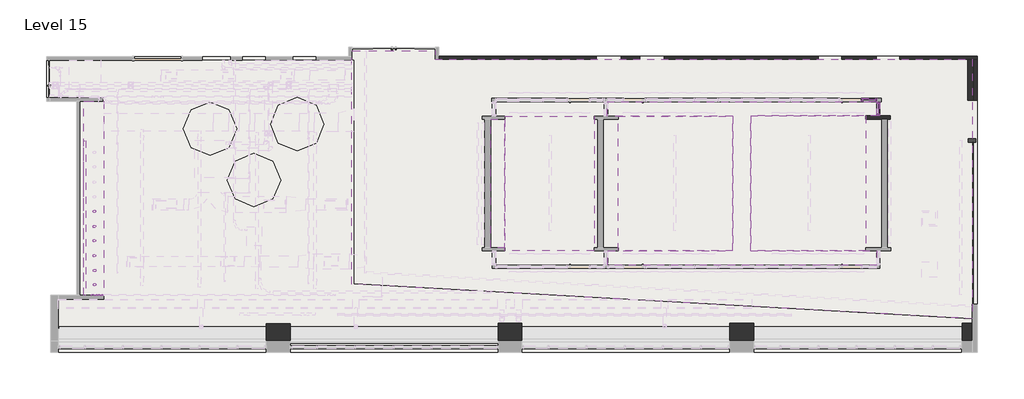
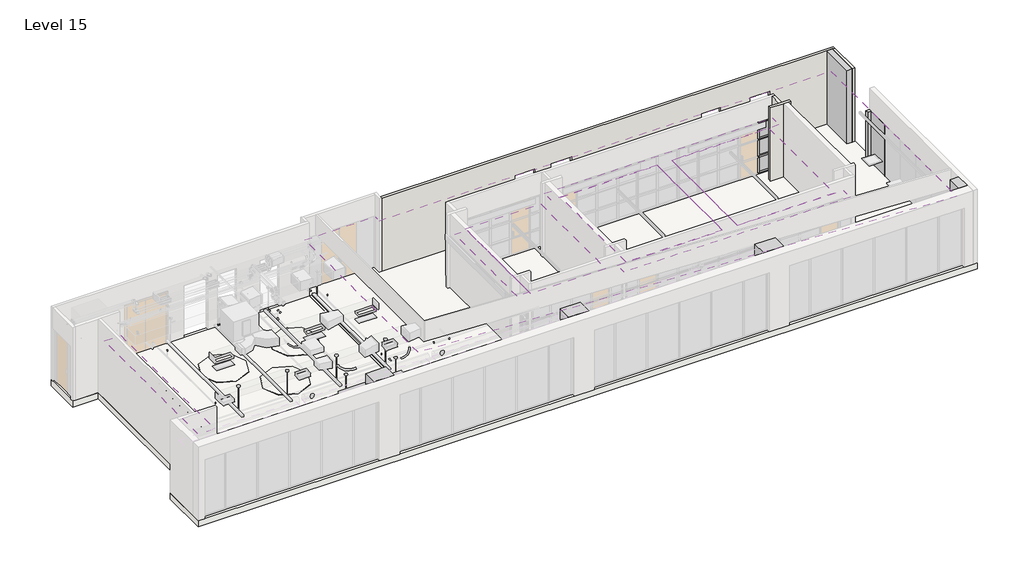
# One storey, part 6 of 11: 21 members, 7 coverings, 7 light fixtures, 7 plates, 7 slabs, 5 columns, 4 walls, 1 cable carrier fitting, 2 other elements.
"""IFC4 building model written with IfcOpenShell, lengths in millimetres."""

from ifc_helpers import new_model, si_unit, point, frame, frame_2d, origin, place, context, project, spatial, polyline, circle_curve, trimmed, segment, composite_curve, outline, extrude, faceted_brep, transform, mapped, element, save
from components import conduit_elbow_steel_standard_458d5d39, light_fixture_42e92d41, vessel_pendant_light_e44dd57b, member_954a25dd, member_b9f3750b, member_69cae7f1, member_757d0d80, member_801e719f, member_073d71e8, member_393abe5d, power_recessed_all2_duplex_standard_2_0b10a376, system_panel_glazed_545210b6, system_panel_glazed_46c34380, system_panel_glazed_1fe242f3, system_panel_glazed_966251f3, system_panel_glazed_4a8b0cf2

model = new_model("IFC4")

# Units and contexts
model_context = context("Model", 3, world=origin())
ifc_project = project(units=[si_unit("LENGTHUNIT", "METRE", prefix="MILLI")], contexts=[model_context])

# Site, building, storey
site = spatial("IfcSite", under=ifc_project)
building = spatial("IfcBuilding", under=site)
storey = spatial("IfcBuildingStorey", under=building, Name="Level 15", Elevation=51206.4)

# Cable carrier fitting
placement = place(None, origin())
conduit_elbow_steel_standard_shape = conduit_elbow_steel_standard_458d5d39(model_context)
element("IfcCableCarrierFitting", 1, ObjectType="Conduit Elbow - Steel : Standard", at=placement, inside=storey, context=model_context, shape_type="MappedRepresentation", body=[
    mapped(conduit_elbow_steel_standard_shape, transform((-16184.9997966, -4754.4898444, 54152.8), x_axis=(-1.0, 0.0, 0.0), y_axis=(0.0, 0.0, 1.0), z_axis=(0.0, 1.0, 0.0))),
])

# Cable carrier segment
element("IfcCableCarrierSegment", 2, ObjectType="Conduit", at=placement, inside=storey, context=model_context, shape_type="SweptSolid", body=[
    extrude(outline(composite_curve([segment(trimmed(circle_curve(frame_2d((0.0, 27.9019)), 27.9019), [point((0.0, 55.8038))], [point((27.9019, 27.9019))], False, "CARTESIAN"), True, "CONTINUOUS"), segment(trimmed(circle_curve(frame_2d((0.0, 27.9019)), 27.9019), [point((27.9019, 27.9019))], [point((0.0, 0.0))], False, "CARTESIAN"), True, "CONTINUOUS"), segment(trimmed(circle_curve(frame_2d((0.0, 27.9019)), 27.9019), [point((0.0, 0.0))], [point((-27.9019, 27.9019))], False, "CARTESIAN"), True, "CONTINUOUS"), segment(trimmed(circle_curve(frame_2d((0.0, 27.9019)), 27.9019), [point((-27.9019, 27.9019))], [point((0.0, 55.8038))], False, "CARTESIAN"), True, "CONTINUOUS")], self_intersect=False)), frame((-16336.928885, -4782.3917444, 54226.9007676), z_axis=(-0.8987940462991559, 0.0, 0.4383711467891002), x_axis=(0.4383711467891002, 0.0, 0.8987940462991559)), (0.0, 0.0, 1.0), 200.2570741),
])

# Columns
element("IfcColumn", 3, ObjectType="I-Rectangular : Generic", at=placement, inside=storey, context=model_context, shape_type="Brep", body=[
    faceted_brep([(-9539.17525, -5899.1866039, 51206.4), (-8574.3902447, -5899.1866039, 51206.4), (-8574.3902447, -6583.4064015, 51206.4), (-9539.17525, -6583.4064015, 51206.4), (-8574.3902447, -5899.1866039, 54889.4), (-8574.3902447, -6583.4064015, 54889.4), (-8574.3902447, -6583.4064015, 54177.8252182), (-9539.17525, -5899.1866039, 54889.4), (-9539.17525, -6583.4064015, 54177.8252182), (-9539.17525, -6583.4064015, 54889.4)], [[[0, 1, 2, 3]], [[1, 4, 5, 6, 2]], [[7, 0, 3, 8, 9]], [[1, 0, 7, 4]], [[4, 7, 9, 5]], [[3, 2, 6, 5, 9, 8]]]),
])
element("IfcColumn", 4, ObjectType="I-Rectangular : Generic", at=placement, inside=storey, context=model_context, shape_type="Brep", body=[
    faceted_brep([(-274.9578349, -5871.0652372, 51206.4), (671.2097553, -5871.0652372, 51206.4), (671.2097553, -6583.4064015, 51206.4), (-274.9578349, -6583.4064015, 51206.4), (671.2097553, -5871.0652372, 54889.4), (671.2097553, -6583.4064015, 54889.4), (671.2097553, -6583.4064015, 54177.8252182), (-274.9578349, -5871.0652372, 54889.4), (-274.9578349, -6583.4064015, 54177.8252182), (-274.9578349, -6583.4064015, 54889.4)], [[[0, 1, 2, 3]], [[1, 4, 5, 6, 2]], [[7, 0, 3, 8, 9]], [[1, 0, 7, 4]], [[4, 7, 9, 5]], [[3, 2, 6, 5, 9, 8]]]),
])
element("IfcColumn", 5, ObjectType="I-Rectangular : Generic", at=placement, inside=storey, context=model_context, shape_type="Brep", body=[
    faceted_brep([(8970.6421651, -5869.3476501, 51206.4), (9927.9060211, -5869.3476501, 51206.4), (9927.9060211, -6583.4064015, 51206.4), (8970.6421651, -6583.4064015, 51206.4), (9927.9060211, -5869.3476501, 54889.4), (9927.9060211, -6583.4064015, 54889.4), (9927.9060211, -6583.4064015, 54177.8252182), (8970.6421651, -5869.3476501, 54889.4), (8970.6421651, -6583.4064015, 54177.8252182), (8970.6421651, -6583.4064015, 54889.4)], [[[0, 1, 2, 3]], [[1, 4, 5, 6, 2]], [[7, 0, 3, 8, 9]], [[1, 0, 7, 4]], [[4, 7, 9, 5]], [[3, 2, 6, 5, 9, 8]]]),
])
element("IfcColumn", 6, ObjectType="I-Rectangular : Generic", at=placement, inside=storey, context=model_context, shape_type="SweptSolid", body=[
    extrude(outline(polyline([(18244.658577, -6583.4064015), (18244.658577, -5866.7417202), (18657.7084916, -5866.7417202), (18657.7084916, -6583.4064015), (18244.658577, -6583.4064015)])), frame((0.0, 0.0, 51206.4), z_axis=(0.0, 0.0, 1.0), x_axis=(1.0, 0.0, 0.0)), (0.0, 0.0, 1.0), 3683.0),
])
element("IfcColumn", 7, ObjectType="I-Rectangular : Generic", at=placement, inside=storey, context=model_context, shape_type="SweptSolid", body=[
    extrude(outline(polyline([(18721.2084916, 4668.7435985), (18721.2084916, 3026.2127401), (18467.0166559, 3026.2127401), (18467.0166559, 4668.7435985), (18721.2084916, 4668.7435985)])), frame((0.0, 0.0, 51206.4), z_axis=(0.0, 0.0, 1.0), x_axis=(1.0, 0.0, 0.0)), (0.0, 0.0, 1.0), 3683.0),
])

# Coverings
element("IfcCovering", 8, ObjectType="30\" x 30\" ACT System", at=placement, inside=storey, context=model_context, shape_type="SweptSolid", body=[
    extrude(outline(polyline([(-7.6915135, 2394.7059951), (3562.7584916, 2394.7059951), (3562.7584916, -2979.8064015), (-7.6915135, -2979.8064015), (-7.6915135, 2394.7059951)]), holes=[composite_curve([segment(trimmed(circle_curve(frame_2d((627.7584916, -1841.8064015)), 70.0), [point((557.7584916, -1841.8064015))], [point((697.7584916, -1841.8064015))], True, "CARTESIAN"), True, "CONTINUOUS"), segment(trimmed(circle_curve(frame_2d((627.7584916, -1841.8064015)), 70.0), [point((697.7584916, -1841.8064015))], [point((557.7584916, -1841.8064015))], True, "CARTESIAN"), True, "CONTINUOUS")], self_intersect=False), composite_curve([segment(trimmed(circle_curve(frame_2d((2937.7584916, -1841.8064015)), 70.0), [point((2867.7584916, -1841.8064015))], [point((3007.7584916, -1841.8064015))], True, "CARTESIAN"), True, "CONTINUOUS"), segment(trimmed(circle_curve(frame_2d((2937.7584916, -1841.8064015)), 70.0), [point((3007.7584916, -1841.8064015))], [point((2867.7584916, -1841.8064015))], True, "CARTESIAN"), True, "CONTINUOUS")], self_intersect=False)]), frame((0.0, 0.0, 53797.2), z_axis=(0.0, 0.0, 1.0), x_axis=(1.0, 0.0, 0.0)), (0.0, 0.0, 1.0), 57.15),
])
element("IfcCovering", 9, ObjectType="30\" x 30\" ACT System", at=placement, inside=storey, context=model_context, shape_type="SweptSolid", body=[
    extrude(outline(polyline([(4517.5084916, -2979.8064015), (4517.5084916, 2394.7059951), (9097.7584916, 2394.7059951), (9097.7584916, -2979.8064015), (4517.5084916, -2979.8064015)]), holes=[composite_curve([segment(trimmed(circle_curve(frame_2d((5677.7584916, 1258.1935985)), 70.0), [point((5607.7584916, 1258.1935985))], [point((5747.7584916, 1258.1935985))], True, "CARTESIAN"), True, "CONTINUOUS"), segment(trimmed(circle_curve(frame_2d((5677.7584916, 1258.1935985)), 70.0), [point((5747.7584916, 1258.1935985))], [point((5607.7584916, 1258.1935985))], True, "CARTESIAN"), True, "CONTINUOUS")], self_intersect=False), composite_curve([segment(trimmed(circle_curve(frame_2d((7997.7584916, 1258.1935985)), 70.0), [point((7927.7584916, 1258.1935985))], [point((8067.7584916, 1258.1935985))], True, "CARTESIAN"), True, "CONTINUOUS"), segment(trimmed(circle_curve(frame_2d((7997.7584916, 1258.1935985)), 70.0), [point((8067.7584916, 1258.1935985))], [point((7927.7584916, 1258.1935985))], True, "CARTESIAN"), True, "CONTINUOUS")], self_intersect=False), composite_curve([segment(trimmed(circle_curve(frame_2d((5667.7584916, -1833.8064015)), 70.0), [point((5597.7584916, -1833.8064015))], [point((5737.7584916, -1833.8064015))], True, "CARTESIAN"), True, "CONTINUOUS"), segment(trimmed(circle_curve(frame_2d((5667.7584916, -1833.8064015)), 70.0), [point((5737.7584916, -1833.8064015))], [point((5597.7584916, -1833.8064015))], True, "CARTESIAN"), True, "CONTINUOUS")], self_intersect=False), composite_curve([segment(trimmed(circle_curve(frame_2d((7947.7584916, -1851.8064015)), 70.0), [point((7877.7584916, -1851.8064015))], [point((8017.7584916, -1851.8064015))], True, "CARTESIAN"), True, "CONTINUOUS"), segment(trimmed(circle_curve(frame_2d((7947.7584916, -1851.8064015)), 70.0), [point((8017.7584916, -1851.8064015))], [point((7877.7584916, -1851.8064015))], True, "CARTESIAN"), True, "CONTINUOUS")], self_intersect=False)]), frame((0.0, 0.0, 53797.2), z_axis=(0.0, 0.0, 1.0), x_axis=(1.0, 0.0, 0.0)), (0.0, 0.0, 1.0), 57.15),
])
element("IfcCovering", 10, ObjectType="30\" x 30\" ACT System", at=placement, inside=storey, context=model_context, shape_type="SweptSolid", body=[
    extrude(outline(polyline([(9803.199573, 2402.7935985), (14409.2229086, 2402.7935985), (14409.2229086, -2979.9154908), (9803.199573, -2979.9154908), (9803.199573, 2402.7935985)]), holes=[composite_curve([segment(trimmed(circle_curve(frame_2d((10967.7584916, -1841.8064015)), 70.0), [point((10897.7584916, -1841.8064015))], [point((11037.7584916, -1841.8064015))], True, "CARTESIAN"), True, "CONTINUOUS"), segment(trimmed(circle_curve(frame_2d((10967.7584916, -1841.8064015)), 70.0), [point((11037.7584916, -1841.8064015))], [point((10897.7584916, -1841.8064015))], True, "CARTESIAN"), True, "CONTINUOUS")], self_intersect=False), composite_curve([segment(trimmed(circle_curve(frame_2d((13277.7584916, -1841.8064015)), 70.0), [point((13207.7584916, -1841.8064015))], [point((13347.7584916, -1841.8064015))], True, "CARTESIAN"), True, "CONTINUOUS"), segment(trimmed(circle_curve(frame_2d((13277.7584916, -1841.8064015)), 70.0), [point((13347.7584916, -1841.8064015))], [point((13207.7584916, -1841.8064015))], True, "CARTESIAN"), True, "CONTINUOUS")], self_intersect=False), composite_curve([segment(trimmed(circle_curve(frame_2d((10967.7584916, 1258.1935985)), 70.0), [point((10897.7584916, 1258.1935985))], [point((11037.7584916, 1258.1935985))], True, "CARTESIAN"), True, "CONTINUOUS"), segment(trimmed(circle_curve(frame_2d((10967.7584916, 1258.1935985)), 70.0), [point((11037.7584916, 1258.1935985))], [point((10897.7584916, 1258.1935985))], True, "CARTESIAN"), True, "CONTINUOUS")], self_intersect=False), composite_curve([segment(trimmed(circle_curve(frame_2d((13277.7584916, 1258.1935985)), 70.0), [point((13207.7584916, 1258.1935985))], [point((13347.7584916, 1258.1935985))], True, "CARTESIAN"), True, "CONTINUOUS"), segment(trimmed(circle_curve(frame_2d((13277.7584916, 1258.1935985)), 70.0), [point((13347.7584916, 1258.1935985))], [point((13207.7584916, 1258.1935985))], True, "CARTESIAN"), True, "CONTINUOUS")], self_intersect=False)]), frame((0.0, 0.0, 53797.2), z_axis=(0.0, 0.0, 1.0), x_axis=(1.0, 0.0, 0.0)), (0.0, 0.0, 1.0), 57.15),
])
element("IfcCovering", 11, ObjectType="GWB on Mtl. Stud", at=placement, inside=storey, context=model_context, shape_type="SweptSolid", body=[
    extrude(outline(polyline([(-2790.2478839, 4668.7435985), (18657.7084916, 4668.7435985), (18657.7084916, -5694.4064015), (-6122.87525, -4309.3116273), (-6122.87525, 5008.9081345), (-2790.2478839, 5008.9081345), (-2790.2478839, 4668.7435985)]), holes=[composite_curve([segment(trimmed(circle_curve(frame_2d((-4452.2415084, 3878.1935985)), 70.0), [point((-4522.2415084, 3878.1935985))], [point((-4382.2415084, 3878.1935985))], True, "CARTESIAN"), True, "CONTINUOUS"), segment(trimmed(circle_curve(frame_2d((-4452.2415084, 3878.1935985)), 70.0), [point((-4382.2415084, 3878.1935985))], [point((-4522.2415084, 3878.1935985))], True, "CARTESIAN"), True, "CONTINUOUS")], self_intersect=False), composite_curve([segment(trimmed(circle_curve(frame_2d((-4452.2415084, 2015.1935985)), 70.0), [point((-4522.2415084, 2015.1935985))], [point((-4382.2415084, 2015.1935985))], True, "CARTESIAN"), True, "CONTINUOUS"), segment(trimmed(circle_curve(frame_2d((-4452.2415084, 2015.1935985)), 70.0), [point((-4382.2415084, 2015.1935985))], [point((-4522.2415084, 2015.1935985))], True, "CARTESIAN"), True, "CONTINUOUS")], self_intersect=False), composite_curve([segment(trimmed(circle_curve(frame_2d((-4452.2415084, 98.1935985)), 70.0), [point((-4522.2415084, 98.1935985))], [point((-4382.2415084, 98.1935985))], True, "CARTESIAN"), True, "CONTINUOUS"), segment(trimmed(circle_curve(frame_2d((-4452.2415084, 98.1935985)), 70.0), [point((-4382.2415084, 98.1935985))], [point((-4522.2415084, 98.1935985))], True, "CARTESIAN"), True, "CONTINUOUS")], self_intersect=False), composite_curve([segment(trimmed(circle_curve(frame_2d((-4452.2415084, -1761.8064015)), 70.0), [point((-4522.2415084, -1761.8064015))], [point((-4382.2415084, -1761.8064015))], True, "CARTESIAN"), True, "CONTINUOUS"), segment(trimmed(circle_curve(frame_2d((-4452.2415084, -1761.8064015)), 70.0), [point((-4382.2415084, -1761.8064015))], [point((-4522.2415084, -1761.8064015))], True, "CARTESIAN"), True, "CONTINUOUS")], self_intersect=False), composite_curve([segment(trimmed(circle_curve(frame_2d((-4452.2415084, -3684.6064015)), 70.0), [point((-4522.2415084, -3684.6064015))], [point((-4382.2415084, -3684.6064015))], True, "CARTESIAN"), True, "CONTINUOUS"), segment(trimmed(circle_curve(frame_2d((-4452.2415084, -3684.6064015)), 70.0), [point((-4382.2415084, -3684.6064015))], [point((-4522.2415084, -3684.6064015))], True, "CARTESIAN"), True, "CONTINUOUS")], self_intersect=False), composite_curve([segment(trimmed(circle_curve(frame_2d((-2501.1453174, 3878.1935985)), 70.0), [point((-2571.1453174, 3878.1935985))], [point((-2431.1453174, 3878.1935985))], True, "CARTESIAN"), True, "CONTINUOUS"), segment(trimmed(circle_curve(frame_2d((-2501.1453174, 3878.1935985)), 70.0), [point((-2431.1453174, 3878.1935985))], [point((-2571.1453174, 3878.1935985))], True, "CARTESIAN"), True, "CONTINUOUS")], self_intersect=False), composite_curve([segment(trimmed(circle_curve(frame_2d((-2501.1453174, 2015.1935985)), 70.0), [point((-2571.1453174, 2015.1935985))], [point((-2431.1453174, 2015.1935985))], True, "CARTESIAN"), True, "CONTINUOUS"), segment(trimmed(circle_curve(frame_2d((-2501.1453174, 2015.1935985)), 70.0), [point((-2431.1453174, 2015.1935985))], [point((-2571.1453174, 2015.1935985))], True, "CARTESIAN"), True, "CONTINUOUS")], self_intersect=False), composite_curve([segment(trimmed(circle_curve(frame_2d((-2501.1453174, 98.1935985)), 70.0), [point((-2571.1453174, 98.1935985))], [point((-2431.1453174, 98.1935985))], True, "CARTESIAN"), True, "CONTINUOUS"), segment(trimmed(circle_curve(frame_2d((-2501.1453174, 98.1935985)), 70.0), [point((-2431.1453174, 98.1935985))], [point((-2571.1453174, 98.1935985))], True, "CARTESIAN"), True, "CONTINUOUS")], self_intersect=False), composite_curve([segment(trimmed(circle_curve(frame_2d((-2501.1453174, -1761.8064015)), 70.0), [point((-2571.1453174, -1761.8064015))], [point((-2431.1453174, -1761.8064015))], True, "CARTESIAN"), True, "CONTINUOUS"), segment(trimmed(circle_curve(frame_2d((-2501.1453174, -1761.8064015)), 70.0), [point((-2431.1453174, -1761.8064015))], [point((-2571.1453174, -1761.8064015))], True, "CARTESIAN"), True, "CONTINUOUS")], self_intersect=False), composite_curve([segment(trimmed(circle_curve(frame_2d((-2501.1453174, -3684.6064015)), 70.0), [point((-2571.1453174, -3684.6064015))], [point((-2431.1453174, -3684.6064015))], True, "CARTESIAN"), True, "CONTINUOUS"), segment(trimmed(circle_curve(frame_2d((-2501.1453174, -3684.6064015)), 70.0), [point((-2431.1453174, -3684.6064015))], [point((-2571.1453174, -3684.6064015))], True, "CARTESIAN"), True, "CONTINUOUS")], self_intersect=False), polyline([(-529.1055951, 3103.416042), (-529.1055951, 2388.3059951), (-922.0915135, 2388.3059951), (-922.0915135, 2261.3059951), (-814.1415135, 2261.3059951), (-814.1415135, -2852.8064015), (-905.2415084, -2852.8064015), (-905.2415084, -2979.8064015), (-506.4144534, -2979.8064015), (-506.4144534, -3684.6064015), (14962.1855466, -3684.6064015), (14962.1855466, -2979.9154908), (15397.6738149, -2979.9154908), (15397.6738149, -2852.9154908), (15259.9736219, -2852.9154908), (15259.9736219, 2275.7935985), (15371.1287834, 2275.7935985), (15371.1287834, 2402.7935985), (15015.6944049, 2402.7935985), (15015.6944049, 3103.416042), (-529.1055951, 3103.416042)])]), frame((0.0, 0.0, 53797.2), z_axis=(0.0, 0.0, 1.0), x_axis=(1.0, 0.0, 0.0)), (0.0, 0.0, 1.0), 92.075),
])
element("IfcCovering", 12, ObjectType="GWB on Mtl. Stud", at=placement, inside=storey, context=model_context, shape_type="SweptSolid", body=[
    extrude(outline(polyline([(-16819.9809218, -4757.7011111), (-16819.9809218, 2985.6250496), (-16037.0051026, 2985.6250496), (-16037.0051026, -4757.7011111), (-16819.9809218, -4757.7011111)])), frame((0.0, 0.0, 53701.95), z_axis=(0.0, 0.0, 1.0), x_axis=(1.0, 0.0, 0.0)), (0.0, 0.0, 1.0), 92.075),
])
element("IfcCovering", 13, ObjectType="GWB on Mtl. Stud", at=placement, inside=storey, context=model_context, shape_type="SweptSolid", body=[
    extrude(outline(polyline([(-585.5415135, -2852.8064015), (-585.5415135, 2261.3059951), (-7.6915135, 2261.3059951), (-7.6915135, -2852.8064015), (-585.5415135, -2852.8064015)])), frame((0.0, 0.0, 53797.2), z_axis=(0.0, 0.0, 1.0), x_axis=(1.0, 0.0, 0.0)), (0.0, 0.0, 1.0), 92.075),
    extrude(outline(polyline([(3964.0369657, -2979.8064015), (3964.0369657, -3557.6064015), (-379.4144534, -3557.6064015), (-379.4144534, -2979.8064015), (3964.0369657, -2979.8064015)])), frame((0.0, 0.0, 53797.2), z_axis=(0.0, 0.0, 1.0), x_axis=(1.0, 0.0, 0.0)), (0.0, 0.0, 1.0), 92.075),
    extrude(outline(polyline([(3697.3369657, -2852.8064015), (3562.7584916, -2852.8064015), (3562.7584916, 2267.7059951), (3697.3369657, 2267.7059951), (3697.3369657, -2852.8064015)])), frame((0.0, 0.0, 53797.2), z_axis=(0.0, 0.0, 1.0), x_axis=(1.0, 0.0, 0.0)), (0.0, 0.0, 1.0), 92.075),
    extrude(outline(polyline([(3949.4264687, 2976.416042), (3949.4264687, 2394.7059951), (-402.1055951, 2394.7059951), (-402.1055951, 2976.416042), (3949.4264687, 2976.416042)])), frame((0.0, 0.0, 53797.2), z_axis=(0.0, 0.0, 1.0), x_axis=(1.0, 0.0, 0.0)), (0.0, 0.0, 1.0), 92.075),
])
element("IfcCovering", 14, ObjectType="GWB on Mtl. Stud", at=placement, inside=storey, context=model_context, shape_type="SweptSolid", body=[
    extrude(outline(polyline([(3925.9369657, -2852.8064015), (3925.9369657, 2267.7059951), (4517.5084916, 2267.7059951), (4517.5084916, -2852.8064015), (3925.9369657, -2852.8064015)])), frame((0.0, 0.0, 53797.2), z_axis=(0.0, 0.0, 1.0), x_axis=(1.0, 0.0, 0.0)), (0.0, 0.0, 1.0), 92.075),
    extrude(outline(polyline([(4091.0369657, -2979.8064015), (9097.7584916, -2979.8064015), (9097.7584916, 2394.7059951), (4076.4264687, 2394.7059951), (4076.4264687, 2976.416042), (14888.6944049, 2976.416042), (14888.6944049, 2402.7935985), (9803.199573, 2402.7935985), (9803.199573, -2979.9154908), (14835.1855466, -2979.9154908), (14835.1855466, -3557.6064015), (4091.0369657, -3557.6064015), (4091.0369657, -2979.8064015)])), frame((0.0, 0.0, 53797.2), z_axis=(0.0, 0.0, 1.0), x_axis=(1.0, 0.0, 0.0)), (0.0, 0.0, 1.0), 92.075),
    extrude(outline(polyline([(14409.2229086, -2852.9154908), (14409.2229086, 2275.7935985), (15031.3736219, 2275.7935985), (15031.3736219, -2852.9154908), (14409.2229086, -2852.9154908)])), frame((0.0, 0.0, 53797.2), z_axis=(0.0, 0.0, 1.0), x_axis=(1.0, 0.0, 0.0)), (0.0, 0.0, 1.0), 92.075),
])

# Light fixtures
light_fixture_shape = light_fixture_42e92d41(model_context)
element("IfcLightFixture", 15, ObjectType="Ceiling Light - Linear Box : 20' 3\"", at=placement, inside=storey, context=model_context, shape_type="MappedRepresentation", body=[
    mapped(light_fixture_shape, transform((-16781.8809218, -1670.6543631, 51263.55), x_axis=(0.0, 1.0, 0.0), y_axis=(-1.0, 0.0, 0.0), z_axis=(0.0, 0.0, 1.0))),
])
vessel_pendant_light_shape = vessel_pendant_light_e44dd57b(model_context)
element("IfcLightFixture", 16, ObjectType="Lighting-VSRA-Vessel-Pendant-Light-SM-3D-Humanscale : Vessel Pendant Light", at=placement, inside=storey, context=model_context, shape_type="MappedRepresentation", body=[
    mapped(vessel_pendant_light_shape, transform((-16402.2415084, -1412.7564015, 53511.8286274), x_axis=(1.0, 0.0, 0.0), y_axis=(0.0, 1.0, 0.0), z_axis=(0.0, 0.0, 1.0))),
])
element("IfcLightFixture", 17, ObjectType="Lighting-VSRA-Vessel-Pendant-Light-SM-3D-Humanscale : Vessel Pendant Light", at=placement, inside=storey, context=model_context, shape_type="MappedRepresentation", body=[
    mapped(vessel_pendant_light_shape, transform((-16402.2415084, -2013.7064015, 53511.8286274), x_axis=(1.0, 0.0, 0.0), y_axis=(0.0, 1.0, 0.0), z_axis=(0.0, 0.0, 1.0))),
])
element("IfcLightFixture", 18, ObjectType="Lighting-VSRA-Vessel-Pendant-Light-SM-3D-Humanscale : Vessel Pendant Light", at=placement, inside=storey, context=model_context, shape_type="MappedRepresentation", body=[
    mapped(vessel_pendant_light_shape, transform((-16402.2415084, -2577.2064015, 53511.8286274), x_axis=(1.0, 0.0, 0.0), y_axis=(0.0, 1.0, 0.0), z_axis=(0.0, 0.0, 1.0))),
])
element("IfcLightFixture", 19, ObjectType="Lighting-VSRA-Vessel-Pendant-Light-SM-3D-Humanscale : Vessel Pendant Light", at=placement, inside=storey, context=model_context, shape_type="MappedRepresentation", body=[
    mapped(vessel_pendant_light_shape, transform((-16402.2415084, -3181.0064015, 53511.8286274), x_axis=(1.0, 0.0, 0.0), y_axis=(0.0, 1.0, 0.0), z_axis=(0.0, 0.0, 1.0))),
])
element("IfcLightFixture", 20, ObjectType="Lighting-VSRA-Vessel-Pendant-Light-SM-3D-Humanscale : Vessel Pendant Light", at=placement, inside=storey, context=model_context, shape_type="MappedRepresentation", body=[
    mapped(vessel_pendant_light_shape, transform((-16396.2415084, -3771.8064015, 53511.8286274), x_axis=(1.0, 0.0, 0.0), y_axis=(0.0, 1.0, 0.0), z_axis=(0.0, 0.0, 1.0))),
])
element("IfcLightFixture", 21, ObjectType="Lighting-VSRA-Vessel-Pendant-Light-SM-3D-Humanscale : Vessel Pendant Light", at=placement, inside=storey, context=model_context, shape_type="MappedRepresentation", body=[
    mapped(vessel_pendant_light_shape, transform((-16396.2415084, -4336.4064015, 53511.8286274), x_axis=(1.0, 0.0, 0.0), y_axis=(0.0, 1.0, 0.0), z_axis=(0.0, 0.0, 1.0))),
])

# Members
member_shape = member_954a25dd(model_context)
element("IfcMember", 22, ObjectType="Rectangular Mullion : 2.5\" x 5\" rectangular", at=placement, inside=storey, context=model_context, shape_type="MappedRepresentation", body=[
    mapped(member_shape, transform((14898.6855466, 2972.5059951, 51206.4), x_axis=(0.0, 1.0, 0.0), y_axis=(1.0, 0.0, 0.0), z_axis=(0.0, 0.0, -1.0))),
])
element("IfcMember", 23, ObjectType="Rectangular Mullion : 2.5\" x 5\" rectangular", at=placement, inside=storey, context=model_context, shape_type="MappedRepresentation", body=[
    mapped(member_shape, transform((14898.6855466, 2402.7935985, 53804.1570075), x_axis=(0.0, -1.0, 0.0), y_axis=(1.0, 0.0, 0.0), z_axis=(0.0, 0.0, 1.0))),
])
element("IfcMember", 24, ObjectType="Rectangular Mullion : 2.5\" x 5\" rectangular", at=placement, inside=storey, context=model_context, shape_type="MappedRepresentation", body=[
    mapped(member_shape, transform((14835.1855466, 3036.0059951, 53804.1570075), x_axis=(1.0, 0.0, 0.0), y_axis=(0.0, 1.0, 0.0), z_axis=(0.0, 0.0, 1.0))),
])
member_2_shape = member_b9f3750b(model_context)
element("IfcMember", 25, ObjectType="Rectangular Mullion : 2.5\" x 5\" rectangular", at=placement, inside=storey, context=model_context, shape_type="MappedRepresentation", body=[
    mapped(member_2_shape, transform((14771.6855466, 3036.0059951, 51206.4), x_axis=(0.0, 0.0, -1.0), y_axis=(0.0, 1.0, 0.0), z_axis=(1.0, 0.0, 0.0))),
])
member_3_shape = member_69cae7f1(model_context)
element("IfcMember", 26, ObjectType="Rectangular Mullion : 2.5\" x 5\" rectangular", at=placement, inside=storey, context=model_context, shape_type="MappedRepresentation", body=[
    mapped(member_3_shape, transform((14250.9855466, 3036.0059951, 51206.4), x_axis=(-1.0, 0.0, 0.0), y_axis=(0.0, 1.0, 0.0), z_axis=(0.0, 0.0, -1.0))),
])
element("IfcMember", 27, ObjectType="Rectangular Mullion : 2.5\" x 5\" rectangular", at=placement, inside=storey, context=model_context, shape_type="MappedRepresentation", body=[
    mapped(member_2_shape, transform((14282.7355466, 3036.0059951, 53804.1570075), x_axis=(0.0, 0.0, 1.0), y_axis=(0.0, 1.0, 0.0), z_axis=(-1.0, 0.0, 0.0))),
])
member_4_shape = member_757d0d80(model_context)
element("IfcMember", 28, ObjectType="Rectangular Mullion : 2.5\" x 5\" rectangular", at=placement, inside=storey, context=model_context, shape_type="MappedRepresentation", body=[
    mapped(member_4_shape, transform((14282.7355466, 3036.0059951, 52938.238005), x_axis=(0.0, 0.0, 1.0), y_axis=(0.0, 1.0, 0.0), z_axis=(-1.0, 0.0, 0.0))),
])
element("IfcMember", 29, ObjectType="Rectangular Mullion : 2.5\" x 5\" rectangular", at=placement, inside=storey, context=model_context, shape_type="MappedRepresentation", body=[
    mapped(member_4_shape, transform((14282.7355466, 3036.0059951, 52072.3190025), x_axis=(0.0, 0.0, 1.0), y_axis=(0.0, 1.0, 0.0), z_axis=(-1.0, 0.0, 0.0))),
])
element("IfcMember", 30, ObjectType="Rectangular Mullion : 2.5\" x 5\" rectangular", at=placement, inside=storey, context=model_context, shape_type="MappedRepresentation", body=[
    mapped(member_3_shape, transform((14250.9855466, 3036.0059951, 52938.238005), x_axis=(-1.0, 0.0, 0.0), y_axis=(0.0, 1.0, 0.0), z_axis=(0.0, 0.0, -1.0))),
])
element("IfcMember", 31, ObjectType="Rectangular Mullion : 2.5\" x 5\" rectangular", at=placement, inside=storey, context=model_context, shape_type="MappedRepresentation", body=[
    mapped(member_3_shape, transform((14250.9855466, 3036.0059951, 52072.3190025), x_axis=(-1.0, 0.0, 0.0), y_axis=(0.0, 1.0, 0.0), z_axis=(0.0, 0.0, -1.0))),
])
element("IfcMember", 32, ObjectType="Rectangular Mullion : 2.5\" x 5\" rectangular", at=placement, inside=storey, context=model_context, shape_type="MappedRepresentation", body=[
    mapped(member_shape, transform((14898.6855466, 2972.5059951, 52938.238005), x_axis=(0.0, 1.0, 0.0), y_axis=(1.0, 0.0, 0.0), z_axis=(0.0, 0.0, -1.0))),
])
element("IfcMember", 33, ObjectType="Rectangular Mullion : 2.5\" x 5\" rectangular", at=placement, inside=storey, context=model_context, shape_type="MappedRepresentation", body=[
    mapped(member_shape, transform((14835.1855466, 3036.0059951, 52938.238005), x_axis=(1.0, 0.0, 0.0), y_axis=(0.0, 1.0, 0.0), z_axis=(0.0, 0.0, 1.0))),
])
element("IfcMember", 34, ObjectType="Rectangular Mullion : 2.5\" x 5\" rectangular", at=placement, inside=storey, context=model_context, shape_type="MappedRepresentation", body=[
    mapped(member_shape, transform((14898.6855466, 2402.7935985, 52938.238005), x_axis=(0.0, -1.0, 0.0), y_axis=(1.0, 0.0, 0.0), z_axis=(0.0, 0.0, 1.0))),
])
element("IfcMember", 35, ObjectType="Rectangular Mullion : 2.5\" x 5\" rectangular", at=placement, inside=storey, context=model_context, shape_type="MappedRepresentation", body=[
    mapped(member_shape, transform((14898.6855466, 2972.5059951, 52072.3190025), x_axis=(0.0, 1.0, 0.0), y_axis=(1.0, 0.0, 0.0), z_axis=(0.0, 0.0, -1.0))),
])
element("IfcMember", 36, ObjectType="Rectangular Mullion : 2.5\" x 5\" rectangular", at=placement, inside=storey, context=model_context, shape_type="MappedRepresentation", body=[
    mapped(member_shape, transform((14835.1855466, 3036.0059951, 52072.3190025), x_axis=(1.0, 0.0, 0.0), y_axis=(0.0, 1.0, 0.0), z_axis=(0.0, 0.0, 1.0))),
])
element("IfcMember", 37, ObjectType="Rectangular Mullion : 2.5\" x 5\" rectangular", at=placement, inside=storey, context=model_context, shape_type="MappedRepresentation", body=[
    mapped(member_shape, transform((14898.6855466, 2402.7935985, 52072.3190025), x_axis=(0.0, -1.0, 0.0), y_axis=(1.0, 0.0, 0.0), z_axis=(0.0, 0.0, 1.0))),
])
member_5_shape = member_801e719f(model_context)
element("IfcMember", 38, ObjectType="Rectangular Mullion : 2.5\" x 5\" rectangular", at=placement, inside=storey, context=model_context, shape_type="MappedRepresentation", body=[
    mapped(member_5_shape, transform((14898.6855466, 2909.0059951, 53804.1570075), x_axis=(0.0, 0.0, 1.0), y_axis=(1.0, 0.0, 0.0), z_axis=(0.0, 1.0, 0.0))),
])
element("IfcMember", 39, ObjectType="Rectangular Mullion : 2.5\" x 5\" rectangular", at=placement, inside=storey, context=model_context, shape_type="MappedRepresentation", body=[
    mapped(member_5_shape, transform((14898.6855466, 2466.2935985, 51206.4), x_axis=(0.0, 0.0, -1.0), y_axis=(1.0, 0.0, 0.0), z_axis=(0.0, -1.0, 0.0))),
])
member_6_shape = member_073d71e8(model_context)
element("IfcMember", 40, ObjectType="Rectangular Mullion : 2.5\" x 5\" rectangular", at=placement, inside=storey, context=model_context, shape_type="MappedRepresentation", body=[
    mapped(member_6_shape, transform((14898.6855466, 2909.0059951, 52938.238005), x_axis=(0.0, 0.0, 1.0), y_axis=(1.0, 0.0, 0.0), z_axis=(0.0, 1.0, 0.0))),
])
element("IfcMember", 41, ObjectType="Rectangular Mullion : 2.5\" x 5\" rectangular", at=placement, inside=storey, context=model_context, shape_type="MappedRepresentation", body=[
    mapped(member_6_shape, transform((14898.6855466, 2909.0059951, 52072.3190025), x_axis=(0.0, 0.0, 1.0), y_axis=(1.0, 0.0, 0.0), z_axis=(0.0, 1.0, 0.0))),
])
member_7_shape = member_393abe5d(model_context)
element("IfcMember", 42, ObjectType="Rectangular Mullion : 2.5\" x 5\" rectangular 2", at=placement, inside=storey, context=model_context, shape_type="MappedRepresentation", body=[
    mapped(member_7_shape, transform((18645.0084916, 1493.7935985, 53804.1570075), x_axis=(0.0, 1.0, 0.0), y_axis=(-1.0, 0.0, 0.0), z_axis=(0.0, 0.0, 1.0))),
])

# Outlet
power_recessed_all2_duplex_standard_2_shape = power_recessed_all2_duplex_standard_2_0b10a376(model_context)
element("IfcOutlet", 43, ObjectType="Power-Recessed-All2 : Duplex-Standard 2", at=placement, inside=storey, context=model_context, shape_type="MappedRepresentation", body=[
    mapped(power_recessed_all2_duplex_standard_2_shape, transform((-17838.6076598, -6050.0064015, 51917.6), x_axis=(0.0, -1.0, 0.0), y_axis=(0.0, 0.0, -1.0), z_axis=(1.0, 0.0, 0.0))),
])

# Plates
system_panel_glazed_shape = system_panel_glazed_545210b6(model_context)
element("IfcPlate", 44, ObjectType="System Panel : Glazed", at=placement, inside=storey, context=model_context, shape_type="MappedRepresentation", body=[
    mapped(system_panel_glazed_shape, transform((18645.0084916, 792.1185985, 51206.4), x_axis=(0.0, -1.0, 0.0), y_axis=(1.0, 0.0, 0.0), z_axis=(0.0, 0.0, 1.0))),
])
system_panel_glazed_2_shape = system_panel_glazed_46c34380(model_context)
element("IfcPlate", 45, ObjectType="System Panel : Glazed", at=placement, inside=storey, context=model_context, shape_type="MappedRepresentation", body=[
    mapped(system_panel_glazed_2_shape, transform((14527.2105466, 3036.0059951, 51269.9), x_axis=(-1.0, 0.0, 0.0), y_axis=(0.0, -1.0, 0.0), z_axis=(0.0, 0.0, 1.0))),
])
element("IfcPlate", 46, ObjectType="System Panel : Glazed", at=placement, inside=storey, context=model_context, shape_type="MappedRepresentation", body=[
    mapped(system_panel_glazed_2_shape, transform((14527.2105466, 3036.0059951, 52969.988005), x_axis=(-1.0, 0.0, 0.0), y_axis=(0.0, -1.0, 0.0), z_axis=(0.0, 0.0, 1.0))),
])
system_panel_glazed_3_shape = system_panel_glazed_1fe242f3(model_context)
element("IfcPlate", 47, ObjectType="System Panel : Glazed", at=placement, inside=storey, context=model_context, shape_type="MappedRepresentation", body=[
    mapped(system_panel_glazed_3_shape, transform((14527.2105466, 3036.0059951, 52104.0690025), x_axis=(-1.0, 0.0, 0.0), y_axis=(0.0, -1.0, 0.0), z_axis=(0.0, 0.0, 1.0))),
])
system_panel_glazed_4_shape = system_panel_glazed_966251f3(model_context)
element("IfcPlate", 48, ObjectType="System Panel : Glazed", at=placement, inside=storey, context=model_context, shape_type="MappedRepresentation", body=[
    mapped(system_panel_glazed_4_shape, transform((14898.6855466, 2687.6497968, 51269.9), x_axis=(0.0, 1.0, 0.0), y_axis=(-1.0, 0.0, 0.0), z_axis=(0.0, 0.0, 1.0))),
])
element("IfcPlate", 49, ObjectType="System Panel : Glazed", at=placement, inside=storey, context=model_context, shape_type="MappedRepresentation", body=[
    mapped(system_panel_glazed_4_shape, transform((14898.6855466, 2687.6497968, 52969.988005), x_axis=(0.0, 1.0, 0.0), y_axis=(-1.0, 0.0, 0.0), z_axis=(0.0, 0.0, 1.0))),
])
system_panel_glazed_5_shape = system_panel_glazed_4a8b0cf2(model_context)
element("IfcPlate", 50, ObjectType="System Panel : Glazed", at=placement, inside=storey, context=model_context, shape_type="MappedRepresentation", body=[
    mapped(system_panel_glazed_5_shape, transform((14898.6855466, 2687.6497968, 52104.0690025), x_axis=(0.0, 1.0, 0.0), y_axis=(-1.0, 0.0, 0.0), z_axis=(0.0, 0.0, 1.0))),
])

# Slabs
element("IfcSlab", 51, ObjectType="Generic - 12\"", at=placement, inside=storey, context=model_context, shape_type="SweptSolid", body=[
    extrude(outline(polyline([(-2659.1641198, 4795.7435985), (18860.9084916, 4795.7435985), (18860.9084916, -7040.6064015), (-18143.4076598, -7040.6064015), (-18143.4076598, -4757.7011111), (-17112.0809218, -4757.7011111), (-17112.0809218, 2985.6250496), (-18314.87525, 2985.6250496), (-18314.87525, 4760.4500496), (-6249.87525, 4760.4500496), (-6249.87525, 5135.9081345), (-2659.1641198, 5135.9081345), (-2659.1641198, 4795.7435985)])), frame((0.0, 0.0, 50901.6), z_axis=(0.0, 0.0, 1.0), x_axis=(1.0, 0.0, 0.0)), (0.0, 0.0, 1.0), 304.8),
])
element("IfcSlab", 52, ObjectType="I-Carpet", at=placement, inside=storey, context=model_context, shape_type="SweptSolid", body=[
    extrude(outline(composite_curve([segment(trimmed(circle_curve(frame_2d((-10032.2415084, -156.4064015)), 1066.8), [point((-11099.0415084, -156.4064015))], [point((-8965.4415084, -156.4064015))], False, "CARTESIAN"), True, "CONTINUOUS"), segment(trimmed(circle_curve(frame_2d((-10032.2415084, -156.4064015)), 1066.8), [point((-8965.4415084, -156.4064015))], [point((-11099.0415084, -156.4064015))], False, "CARTESIAN"), True, "CONTINUOUS")], self_intersect=False)), frame((0.0, 0.0, 51219.1), z_axis=(0.0, 0.0, 1.0), x_axis=(1.0, 0.0, 0.0)), (0.0, 0.0, 1.0), 12.7),
])
element("IfcSlab", 53, ObjectType="I-Carpet", at=placement, inside=storey, context=model_context, shape_type="SweptSolid", body=[
    extrude(outline(composite_curve([segment(trimmed(circle_curve(frame_2d((-11785.7740774, 1890.5187763)), 1066.8), [point((-12852.5740774, 1890.5187763))], [point((-10718.9740774, 1890.5187763))], False, "CARTESIAN"), True, "CONTINUOUS"), segment(trimmed(circle_curve(frame_2d((-11785.7740774, 1890.5187763)), 1066.8), [point((-10718.9740774, 1890.5187763))], [point((-12852.5740774, 1890.5187763))], False, "CARTESIAN"), True, "CONTINUOUS")], self_intersect=False)), frame((0.0, 0.0, 51219.1), z_axis=(0.0, 0.0, 1.0), x_axis=(1.0, 0.0, 0.0)), (0.0, 0.0, 1.0), 12.7),
])
element("IfcSlab", 54, ObjectType="I-Carpet", at=placement, inside=storey, context=model_context, shape_type="SweptSolid", body=[
    extrude(outline(composite_curve([segment(trimmed(circle_curve(frame_2d((-8304.1089394, 2074.7420423)), 1066.8), [point((-9370.9089394, 2074.7420423))], [point((-7237.3089394, 2074.7420423))], False, "CARTESIAN"), True, "CONTINUOUS"), segment(trimmed(circle_curve(frame_2d((-8304.1089394, 2074.7420423)), 1066.8), [point((-7237.3089394, 2074.7420423))], [point((-9370.9089394, 2074.7420423))], False, "CARTESIAN"), True, "CONTINUOUS")], self_intersect=False)), frame((0.0, 0.0, 51219.1), z_axis=(0.0, 0.0, 1.0), x_axis=(1.0, 0.0, 0.0)), (0.0, 0.0, 1.0), 12.7),
])
element("IfcSlab", 55, ObjectType="I-Carpet", at=placement, inside=storey, context=model_context, shape_type="SweptSolid", body=[
    extrude(outline(polyline([(-585.5415135, -2985.4497002), (-585.5415135, 2387.0316496), (15031.3736219, 2387.0316496), (15031.3736219, -2985.4497002), (-585.5415135, -2985.4497002)])), frame((0.0, 0.0, 51193.7), z_axis=(0.0, 0.0, 1.0), x_axis=(1.0, 0.0, 0.0)), (0.0, 0.0, 1.0), 12.7),
])
element("IfcSlab", 56, ObjectType="I-Hardwood", at=placement, inside=storey, context=model_context, shape_type="SweptSolid", body=[
    extrude(outline(polyline([(-6046.67525, 4633.4500496), (-6046.67525, -4304.3702682), (18657.7084916, -5694.4064015), (18657.7084916, -5866.7417202), (18229.7812335, -5866.7417202), (18229.7812335, -6824.7064015), (11.5158065, -6824.7064015), (-17838.6076598, -6824.7064015), (-17838.6076598, -4910.1011111), (-16985.0809218, -4910.1011111), (-16985.0809218, 3138.0250496), (-18187.87525, 3138.0250496), (-18187.87525, 4633.4500496), (-6046.67525, 4633.4500496)])), frame((0.0, 0.0, 51193.7), z_axis=(0.0, 0.0, 1.0), x_axis=(1.0, 0.0, 0.0)), (0.0, 0.0, 1.0), 12.7),
])
element("IfcSlab", 57, ObjectType="I-Tile", at=placement, inside=storey, context=model_context, shape_type="SweptSolid", body=[
    extrude(outline(polyline([(-6122.87525, 5135.9081345), (-2746.2982951, 5135.9081345), (-2746.2982951, 4668.7435985), (18664.0584916, 4668.7435985), (18664.0584916, -5694.7636956), (-6122.87525, -4300.0827395), (-6122.87525, 5135.9081345)]), holes=[polyline([(-585.5415135, -2985.4497002), (15031.3736219, -2985.4497002), (15031.3736219, 2387.0316496), (-585.5415135, 2387.0316496), (-585.5415135, -2985.4497002)])]), frame((0.0, 0.0, 51193.7), z_axis=(0.0, 0.0, 1.0), x_axis=(1.0, 0.0, 0.0)), (0.0, 0.0, 1.0), 12.7),
])

# Walls
element("IfcWall", 58, ObjectType="Generic - 5\"", at=placement, inside=storey, context=model_context, shape_type="Brep", body=[
    faceted_brep([(18848.2084916, 4668.7435985, 54889.4), (18721.2084916, 4668.7435985, 54889.4), (18467.0166559, 4668.7435985, 54889.4), (-2659.1641198, 4668.7435985, 54889.4), (-2659.1641198, 4668.7435985, 51206.4), (3642.6584916, 4668.7435985, 51206.4), (3642.6584916, 4668.7435985, 53807.2), (4627.8584916, 4668.7435985, 53807.2), (4627.8584916, 4668.7435985, 51206.4), (5369.8584916, 4668.7435985, 51206.4), (5369.8584916, 4668.7435985, 53807.2), (6355.0584916, 4668.7435985, 53807.2), (6355.0584916, 4668.7435985, 51206.4), (12507.2584916, 4668.7435985, 51206.4), (12507.2584916, 4668.7435985, 53807.2), (13441.6584916, 4668.7435985, 53807.2), (13441.6584916, 4668.7435985, 51206.4), (14818.6584916, 4668.7435985, 51206.4), (14818.6584916, 4668.7435985, 53807.2), (15753.0584916, 4668.7435985, 53807.2), (15753.0584916, 4668.7435985, 51206.4), (18467.0166559, 4668.7435985, 51206.4), (18721.2084916, 4668.7435985, 51206.4), (18848.2084916, 4668.7435985, 51206.4), (-2659.1641198, 4795.7435985, 54889.4), (18848.2084916, 4795.7435985, 54889.4), (18848.2084916, 4795.7435985, 51206.4), (15753.0584916, 4795.7435985, 51206.4), (15753.0584916, 4795.7435985, 53807.2), (14818.6584916, 4795.7435985, 53807.2), (14818.6584916, 4795.7435985, 51206.4), (13441.6584916, 4795.7435985, 51206.4), (13441.6584916, 4795.7435985, 53807.2), (12507.2584916, 4795.7435985, 53807.2), (12507.2584916, 4795.7435985, 51206.4), (6355.0584916, 4795.7435985, 51206.4), (6355.0584916, 4795.7435985, 53807.2), (5369.8584916, 4795.7435985, 53807.2), (5369.8584916, 4795.7435985, 51206.4), (4627.8584916, 4795.7435985, 51206.4), (4627.8584916, 4795.7435985, 53807.2), (3642.6584916, 4795.7435985, 53807.2), (3642.6584916, 4795.7435985, 51206.4), (-2659.1641198, 4795.7435985, 51206.4)], [[[0, 1, 2, 3, 4, 5, 6, 7, 8, 9, 10, 11, 12, 13, 14, 15, 16, 17, 18, 19, 20, 21, 22, 23]], [[24, 25, 26, 27, 28, 29, 30, 31, 32, 33, 34, 35, 36, 37, 38, 39, 40, 41, 42, 43]], [[4, 43, 42, 5]], [[26, 23, 22, 21, 20, 27]], [[8, 39, 38, 9]], [[12, 35, 34, 13]], [[16, 31, 30, 17]], [[3, 2, 1, 0, 25, 24]], [[4, 3, 24, 43]], [[0, 23, 26, 25]], [[6, 5, 42, 41]], [[7, 6, 41, 40]], [[8, 7, 40, 39]], [[37, 10, 9, 38]], [[10, 37, 36, 11]], [[11, 36, 35, 12]], [[16, 15, 32, 31]], [[15, 14, 33, 32]], [[14, 13, 34, 33]], [[29, 18, 17, 30]], [[18, 29, 28, 19]], [[19, 28, 27, 20]]]),
])
element("IfcWall", 59, ObjectType="Generic - 5\"", at=placement, inside=storey, context=model_context, shape_type="SweptSolid", body=[
    extrude(outline(polyline([(18721.2084916, 3026.2127401), (18721.2084916, 4668.7435985), (18848.2084916, 4668.7435985), (18848.2084916, 3026.2127401), (18721.2084916, 3026.2127401)])), frame((0.0, 0.0, 51206.4), z_axis=(0.0, 0.0, 1.0), x_axis=(1.0, 0.0, 0.0)), (0.0, 0.0, 1.0), 3683.0),
])
element("IfcWall", 60, ObjectType="Generic - 5\"", at=placement, inside=storey, context=model_context, shape_type="Brep", body=[
    faceted_brep([(15371.1287834, 2402.7935985, 51206.4), (15015.6944049, 2402.7935985, 51206.4), (14888.6944049, 2402.7935985, 51206.4), (14409.2229086, 2402.7935985, 51206.4), (14409.2229086, 2402.7935985, 54889.4), (14888.6944049, 2402.7935985, 54889.4), (15015.6944049, 2402.7935985, 54889.4), (15371.1287834, 2402.7935985, 54889.4), (15371.1287834, 2275.7935985, 51206.4), (15371.1287834, 2275.7935985, 54889.4), (15259.9736219, 2275.7935985, 54889.4), (15031.3736219, 2275.7935985, 54889.4), (14409.2229086, 2275.7935985, 54889.4), (14409.2229086, 2275.7935985, 51206.4), (15031.3736219, 2275.7935985, 51206.4), (15259.9736219, 2275.7935985, 51206.4)], [[[0, 1, 2, 3, 4, 5, 6, 7]], [[8, 9, 10, 11, 12, 13, 14, 15]], [[3, 2, 1, 0, 8, 15, 14, 13]], [[4, 3, 13, 12]], [[7, 6, 5, 4, 12, 11, 10, 9]], [[0, 7, 9, 8]]]),
])
element("IfcWall", 61, ObjectType="Generic - 5\"", at=placement, inside=storey, context=model_context, shape_type="SweptSolid", body=[
    extrude(outline(polyline([(2402.7935985, 54889.4), (2976.416042, 54889.4), (2976.416042, 51206.4), (2972.5059951, 51206.4), (2972.5059951, 53804.1570075), (2402.7935985, 53804.1570075), (2402.7935985, 54889.4)])), frame((14888.6944049, 0.0, 0.0), z_axis=(1.0, 0.0, 0.0), x_axis=(0.0, 1.0, 0.0)), (0.0, 0.0, 1.0), 127.0),
])

save(model, "model.ifc")
